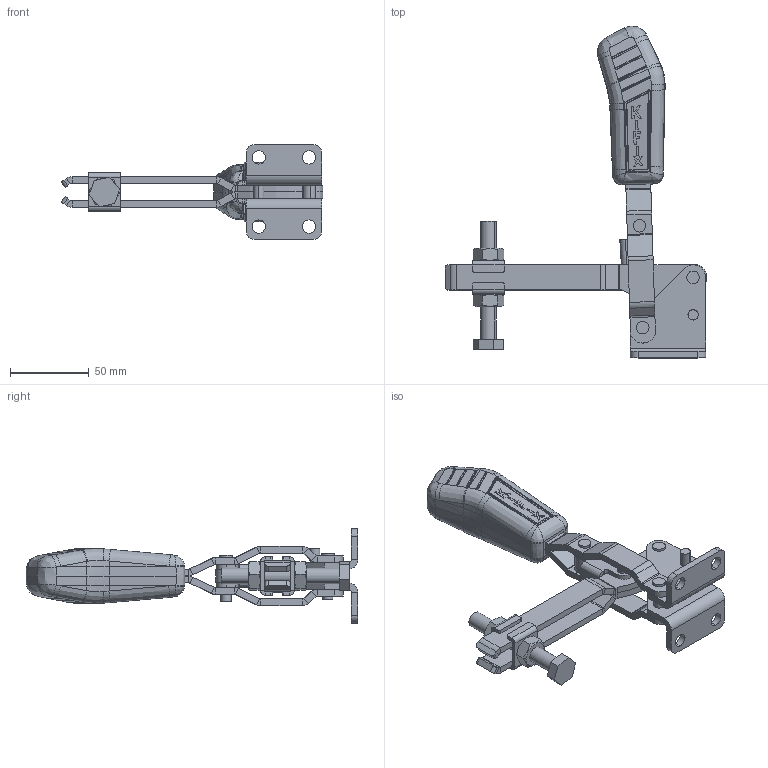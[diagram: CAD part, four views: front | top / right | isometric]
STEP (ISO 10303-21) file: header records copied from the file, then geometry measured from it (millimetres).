
FILE_DESCRIPTION (( 'STEP AP203' ), '1' );
FILE_NAME ('KF-011 DBL.STEP', '2014-07-28T12:45:40', ( 'Ricardo' ), ( '' ), 'SwSTEP 2.0', 'SolidWorks 2013', '' );
FILE_SCHEMA (( 'CONFIG_CONTROL_DESIGN' ));
Length unit declared in the file: millimetre
Products named in the file (15): 04.20002; 06.50007; 02.12009_Direita; 06.50008; 02.12009_Esquerda; 05.20005; 03.14004_Direita; 12.50004; 03.14004_Esquerda; 11.50003; 01.10013; 14.10003; 04.10002; KF-011 DBL; 07.60002
Assembly tree (19 placements, depth 2):
  KF-011 DBL
    02.12009_Direita
    02.12009_Esquerda
    03.14004_Direita
    03.14004_Esquerda
    01.10013  x2
    04.10002
    07.60002
    04.20002
    06.50007  x2
    06.50008  x2
    05.20005
    12.50004
    11.50003  x2
    14.10003  x2
Bounding box: 166.22 x 210.97 x 60 mm (x, y, z)
Volume: 175823.1 mm3; surface area: 75363.8 mm2
Topology: 19 solids, 19 shells, 846 faces, 2026 edges, 1229 vertices
Faces by surface type: plane 372, cylinder 230, bspline 157, sphere 52, cone 32, torus 3
Entity records: 26617 total; most frequent: CARTESIAN_POINT 9362, ORIENTED_EDGE 3452, DIRECTION 2881, EDGE_CURVE 1726, AXIS2_PLACEMENT_3D 1075, VERTEX_POINT 1063, EDGE_LOOP 793, VECTOR 731
